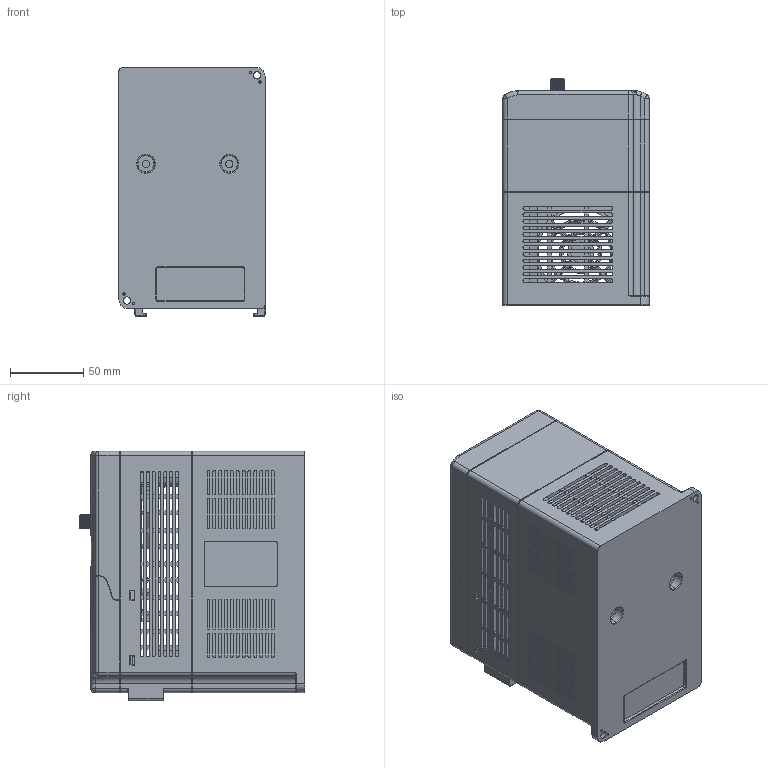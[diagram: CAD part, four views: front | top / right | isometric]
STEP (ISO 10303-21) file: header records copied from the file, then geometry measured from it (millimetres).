
FILE_DESCRIPTION((''),'2;1');
FILE_NAME('GD10-2R2-2_ASM','2019-11-18T',('Administrator'),(''),'PRO/ENGINEER BY PARAMETRIC TECHNOLOGY CORPORATION, 2010280','PRO/ENGINEER BY PARAMETRIC TECHNOLOGY CORPORATION, 2010280','');
FILE_SCHEMA(('CONFIG_CONTROL_DESIGN'));
Products named in the file (22): GD10-2R2-DRIVER; 80740057; 80740105; GD10-CONTRAL; GD10-CONTROL_TERMINAL_01; GD10-CONTROL_TERMINAL_02; GD10-CONTRAL_ASM; 80740060; 80740060SY1_ASM; 80740058; 80740058SY1_ASM; 80740041; 80810010; 80710012; LD100-JP-PCB; 80740127; GD100-JP_ASM; GB6560_M4X10_ZU; GD10-2R2G-4-FS_ASM; GB845_76_M3X8_ZU; 80740102; GD10-2R2-2_ASM
Assembly tree (28 placements, depth 3):
  GD10-2R2-2_ASM
    GD10-2R2-DRIVER
    80740057
    80740105
    GD10-CONTRAL_ASM
      GD10-CONTRAL
      GD10-CONTROL_TERMINAL_01  x4
      GD10-CONTROL_TERMINAL_02
    80740060SY1_ASM
      80740060
    80740058SY1_ASM
      80740058
    80740041
    GD100-JP_ASM
      80810010
      80710012
      LD100-JP-PCB
      80740127
    GD10-2R2G-4-FS_ASM
      GB6560_M4X10_ZU  x4
    GB845_76_M3X8_ZU  x2
    80740102
Bounding box: 100 x 154.55 x 170.5 mm (x, y, z)
Volume: 417984.3 mm3; surface area: 426476.7 mm2
Topology: 23 solids, 23 shells, 6041 faces, 16366 edges, 10600 vertices
Faces by surface type: plane 3895, cylinder 1418, torus 311, cone 186, sphere 124, bspline 103, extrusion 4
Entity records: 193031 total; most frequent: CARTESIAN_POINT 43136, ORIENTED_EDGE 31752, DIRECTION 30182, EDGE_CURVE 15876, VECTOR 11576, LINE 11572, VERTEX_POINT 10296, AXIS2_PLACEMENT_3D 9303
